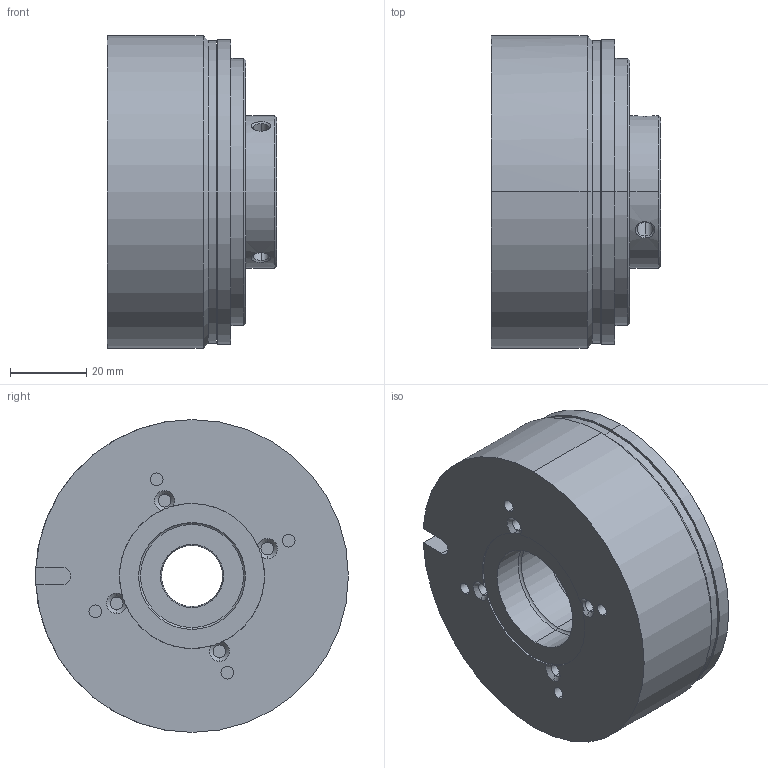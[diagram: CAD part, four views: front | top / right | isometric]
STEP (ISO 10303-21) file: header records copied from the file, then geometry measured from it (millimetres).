
FILE_DESCRIPTION (( 'STEP AP214' ), '1' );
FILE_NAME ('86_61108K00_Bohrung Ø16H7.STEP', '2019-05-20T08:45:39', ( '' ), ( '' ), 'SwSTEP 2.0', 'SolidWorks 2018', '' );
FILE_SCHEMA (( 'AUTOMOTIVE_DESIGN' ));
Length unit declared in the file: millimetre
Products named in the file (1): 86_61108K00_Bohrung Ø16H7
Bounding box: 44.4 x 82 x 82 mm (x, y, z)
Volume: 165841.7 mm3; surface area: 33510.7 mm2
Topology: 2 solids, 2 shells, 105 faces, 235 edges, 144 vertices
Faces by surface type: cylinder 52, cone 30, plane 21, torus 2
Entity records: 3580 total; most frequent: CARTESIAN_POINT 865, DIRECTION 557, ORIENTED_EDGE 470, AXIS2_PLACEMENT_3D 236, EDGE_CURVE 235, VERTEX_POINT 144, CIRCLE 130, EDGE_LOOP 125
